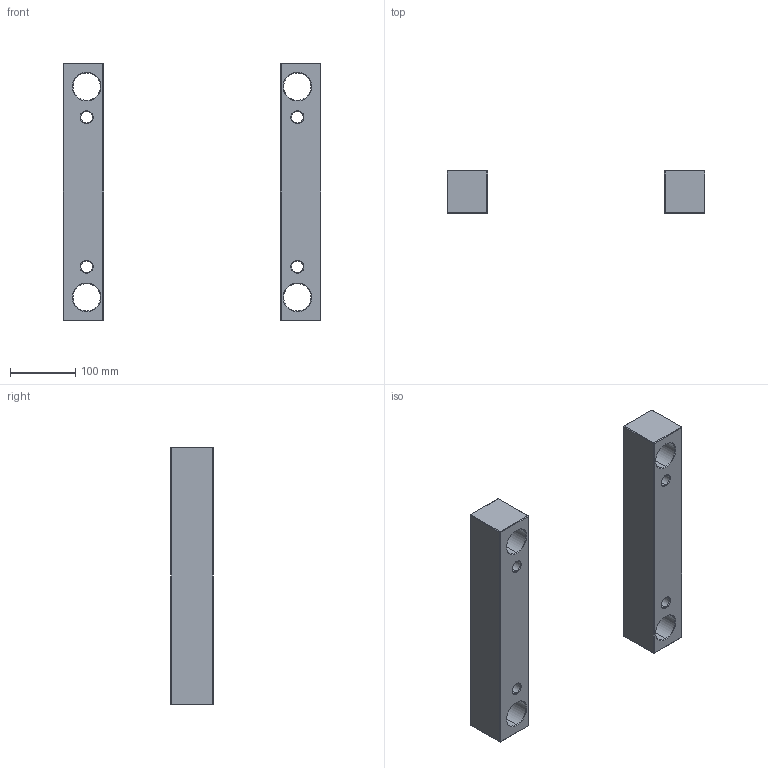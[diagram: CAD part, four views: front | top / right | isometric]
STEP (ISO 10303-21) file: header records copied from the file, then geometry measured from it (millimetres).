
FILE_DESCRIPTION (( 'STEP AP214' ), '1' );
FILE_NAME ('ESP-EU-396X396x66.STEP', '2020-04-16T11:27:33', ( 'August' ), ( '' ), 'SwSTEP 2.0', 'SolidWorks 2018', '' );
FILE_SCHEMA (( 'AUTOMOTIVE_DESIGN' ));
Length unit declared in the file: millimetre
Products named in the file (1): ESP-EU-396X396x66
Bounding box: 396 x 66 x 396 mm (x, y, z)
Volume: 2805071.3 mm3; surface area: 252439.4 mm2
Topology: 2 solids, 2 shells, 100 faces, 208 edges, 112 vertices
Faces by surface type: plane 52, cone 32, cylinder 16
Entity records: 2631 total; most frequent: DIRECTION 474, CARTESIAN_POINT 421, ORIENTED_EDGE 416, EDGE_CURVE 208, AXIS2_PLACEMENT_3D 165, LINE 144, VECTOR 144, EDGE_LOOP 116
